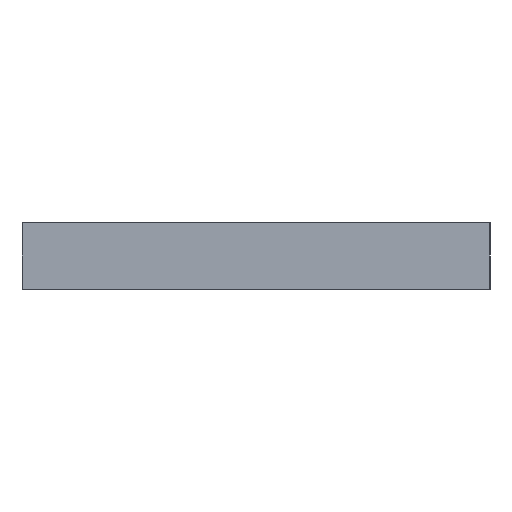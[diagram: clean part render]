
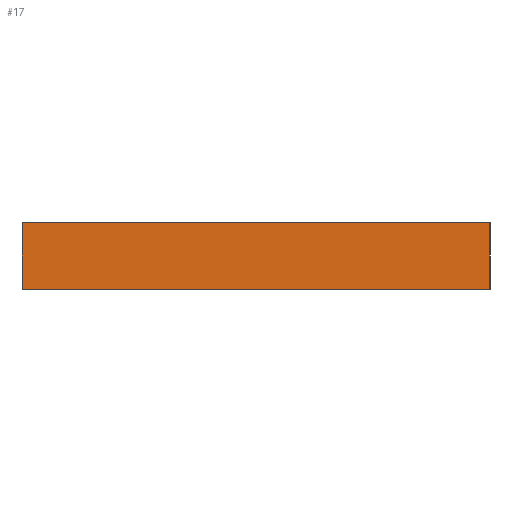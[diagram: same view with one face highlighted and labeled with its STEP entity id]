
A CAD part, left-side view. The second image highlights one B-rep face of the part: STEP entity #17.
In plain terms, the highlighted planar face has unit normal (-1, 0, 0).
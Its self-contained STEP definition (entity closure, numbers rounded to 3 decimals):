
#17 = ADVANCED_FACE('',(#18),#32,.F.);
#18 = FACE_BOUND('',#19,.F.);
#19 = EDGE_LOOP('',(#20,#55,#83,#111));
#20 = ORIENTED_EDGE('',*,*,#21,.F.);
#21 = EDGE_CURVE('',#22,#24,#26,.T.);
#22 = VERTEX_POINT('',#23);
#23 = CARTESIAN_POINT('',(0.,0.,0.));
#24 = VERTEX_POINT('',#25);
#25 = CARTESIAN_POINT('',(0.,0.,4.));
#26 = SURFACE_CURVE('',#27,(#31,#43),.PCURVE_S1.);
#27 = LINE('',#28,#29);
#28 = CARTESIAN_POINT('',(0.,0.,0.));
#29 = VECTOR('',#30,1.);
#30 = DIRECTION('',(0.,0.,1.));
#31 = PCURVE('',#32,#37);
#32 = PLANE('',#33);
#33 = AXIS2_PLACEMENT_3D('',#34,#35,#36);
#34 = CARTESIAN_POINT('',(0.,0.,0.));
#35 = DIRECTION('',(1.,0.,0.));
#36 = DIRECTION('',(0.,0.,1.));
#37 = DEFINITIONAL_REPRESENTATION('',(#38),#42);
#38 = LINE('',#39,#40);
#39 = CARTESIAN_POINT('',(0.,0.));
#40 = VECTOR('',#41,1.);
#41 = DIRECTION('',(1.,0.));
#42 = ( GEOMETRIC_REPRESENTATION_CONTEXT(2) 
PARAMETRIC_REPRESENTATION_CONTEXT() REPRESENTATION_CONTEXT('2D SPACE',''
  ) );
#43 = PCURVE('',#44,#49);
#44 = PLANE('',#45);
#45 = AXIS2_PLACEMENT_3D('',#46,#47,#48);
#46 = CARTESIAN_POINT('',(0.,0.,0.));
#47 = DIRECTION('',(0.,1.,0.));
#48 = DIRECTION('',(0.,0.,1.));
#49 = DEFINITIONAL_REPRESENTATION('',(#50),#54);
#50 = LINE('',#51,#52);
#51 = CARTESIAN_POINT('',(0.,0.));
#52 = VECTOR('',#53,1.);
#53 = DIRECTION('',(1.,0.));
#54 = ( GEOMETRIC_REPRESENTATION_CONTEXT(2) 
PARAMETRIC_REPRESENTATION_CONTEXT() REPRESENTATION_CONTEXT('2D SPACE',''
  ) );
#55 = ORIENTED_EDGE('',*,*,#56,.T.);
#56 = EDGE_CURVE('',#22,#57,#59,.T.);
#57 = VERTEX_POINT('',#58);
#58 = CARTESIAN_POINT('',(0.,28.,0.));
#59 = SURFACE_CURVE('',#60,(#64,#71),.PCURVE_S1.);
#60 = LINE('',#61,#62);
#61 = CARTESIAN_POINT('',(0.,0.,0.));
#62 = VECTOR('',#63,1.);
#63 = DIRECTION('',(0.,1.,0.));
#64 = PCURVE('',#32,#65);
#65 = DEFINITIONAL_REPRESENTATION('',(#66),#70);
#66 = LINE('',#67,#68);
#67 = CARTESIAN_POINT('',(0.,0.));
#68 = VECTOR('',#69,1.);
#69 = DIRECTION('',(0.,-1.));
#70 = ( GEOMETRIC_REPRESENTATION_CONTEXT(2) 
PARAMETRIC_REPRESENTATION_CONTEXT() REPRESENTATION_CONTEXT('2D SPACE',''
  ) );
#71 = PCURVE('',#72,#77);
#72 = PLANE('',#73);
#73 = AXIS2_PLACEMENT_3D('',#74,#75,#76);
#74 = CARTESIAN_POINT('',(0.,0.,0.));
#75 = DIRECTION('',(0.,0.,1.));
#76 = DIRECTION('',(1.,0.,0.));
#77 = DEFINITIONAL_REPRESENTATION('',(#78),#82);
#78 = LINE('',#79,#80);
#79 = CARTESIAN_POINT('',(0.,0.));
#80 = VECTOR('',#81,1.);
#81 = DIRECTION('',(0.,1.));
#82 = ( GEOMETRIC_REPRESENTATION_CONTEXT(2) 
PARAMETRIC_REPRESENTATION_CONTEXT() REPRESENTATION_CONTEXT('2D SPACE',''
  ) );
#83 = ORIENTED_EDGE('',*,*,#84,.T.);
#84 = EDGE_CURVE('',#57,#85,#87,.T.);
#85 = VERTEX_POINT('',#86);
#86 = CARTESIAN_POINT('',(0.,28.,4.));
#87 = SURFACE_CURVE('',#88,(#92,#99),.PCURVE_S1.);
#88 = LINE('',#89,#90);
#89 = CARTESIAN_POINT('',(0.,28.,0.));
#90 = VECTOR('',#91,1.);
#91 = DIRECTION('',(0.,0.,1.));
#92 = PCURVE('',#32,#93);
#93 = DEFINITIONAL_REPRESENTATION('',(#94),#98);
#94 = LINE('',#95,#96);
#95 = CARTESIAN_POINT('',(0.,-28.));
#96 = VECTOR('',#97,1.);
#97 = DIRECTION('',(1.,0.));
#98 = ( GEOMETRIC_REPRESENTATION_CONTEXT(2) 
PARAMETRIC_REPRESENTATION_CONTEXT() REPRESENTATION_CONTEXT('2D SPACE',''
  ) );
#99 = PCURVE('',#100,#105);
#100 = PLANE('',#101);
#101 = AXIS2_PLACEMENT_3D('',#102,#103,#104);
#102 = CARTESIAN_POINT('',(0.,28.,0.));
#103 = DIRECTION('',(0.,1.,0.));
#104 = DIRECTION('',(0.,0.,1.));
#105 = DEFINITIONAL_REPRESENTATION('',(#106),#110);
#106 = LINE('',#107,#108);
#107 = CARTESIAN_POINT('',(0.,0.));
#108 = VECTOR('',#109,1.);
#109 = DIRECTION('',(1.,0.));
#110 = ( GEOMETRIC_REPRESENTATION_CONTEXT(2) 
PARAMETRIC_REPRESENTATION_CONTEXT() REPRESENTATION_CONTEXT('2D SPACE',''
  ) );
#111 = ORIENTED_EDGE('',*,*,#112,.F.);
#112 = EDGE_CURVE('',#24,#85,#113,.T.);
#113 = SURFACE_CURVE('',#114,(#118,#125),.PCURVE_S1.);
#114 = LINE('',#115,#116);
#115 = CARTESIAN_POINT('',(0.,0.,4.));
#116 = VECTOR('',#117,1.);
#117 = DIRECTION('',(0.,1.,0.));
#118 = PCURVE('',#32,#119);
#119 = DEFINITIONAL_REPRESENTATION('',(#120),#124);
#120 = LINE('',#121,#122);
#121 = CARTESIAN_POINT('',(4.,0.));
#122 = VECTOR('',#123,1.);
#123 = DIRECTION('',(0.,-1.));
#124 = ( GEOMETRIC_REPRESENTATION_CONTEXT(2) 
PARAMETRIC_REPRESENTATION_CONTEXT() REPRESENTATION_CONTEXT('2D SPACE',''
  ) );
#125 = PCURVE('',#126,#131);
#126 = PLANE('',#127);
#127 = AXIS2_PLACEMENT_3D('',#128,#129,#130);
#128 = CARTESIAN_POINT('',(0.,0.,4.));
#129 = DIRECTION('',(0.,0.,1.));
#130 = DIRECTION('',(1.,0.,0.));
#131 = DEFINITIONAL_REPRESENTATION('',(#132),#136);
#132 = LINE('',#133,#134);
#133 = CARTESIAN_POINT('',(0.,0.));
#134 = VECTOR('',#135,1.);
#135 = DIRECTION('',(0.,1.));
#136 = ( GEOMETRIC_REPRESENTATION_CONTEXT(2) 
PARAMETRIC_REPRESENTATION_CONTEXT() REPRESENTATION_CONTEXT('2D SPACE',''
  ) );
